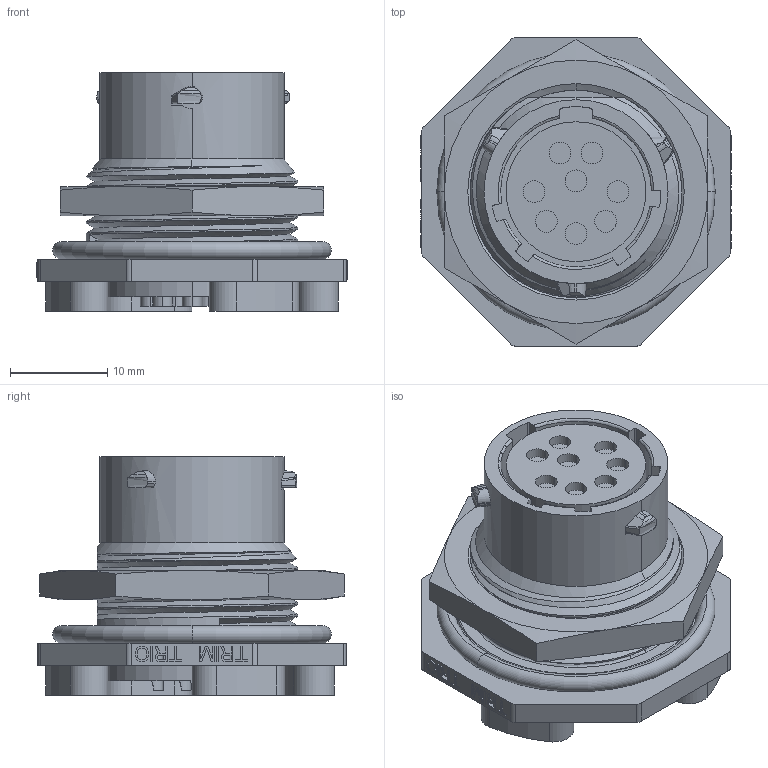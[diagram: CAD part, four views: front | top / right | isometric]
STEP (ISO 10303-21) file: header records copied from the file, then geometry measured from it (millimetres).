
FILE_DESCRIPTION((''),'2;1');
FILE_NAME('UTS712E8S','2011-04-05T',('vsorin'),('SOURIAU'),'PRO/ENGINEER BY PARAMETRIC TECHNOLOGY CORPORATION, 2010140','PRO/ENGINEER BY PARAMETRIC TECHNOLOGY CORPORATION, 2010140','');
FILE_SCHEMA(('CONFIG_CONTROL_DESIGN'));
Length unit declared in the file: millimetre
Products named in the file (1): UTS712E8S
Bounding box: 31.95 x 31.75 x 24.58 mm (x, y, z)
Surface area: 6620.7 mm2 (no closed solid volume)
Topology: 0 solids, 14 shells, 415 faces, 1584 edges, 1155 vertices
Faces by surface type: plane 216, cylinder 119, bspline 32, cone 25, torus 15, extrusion 8
Entity records: 20316 total; most frequent: CARTESIAN_POINT 7481, ORIENTED_EDGE 2583, DIRECTION 2399, EDGE_CURVE 1584, VERTEX_POINT 1155, VECTOR 1077, LINE 1069, AXIS2_PLACEMENT_3D 661
